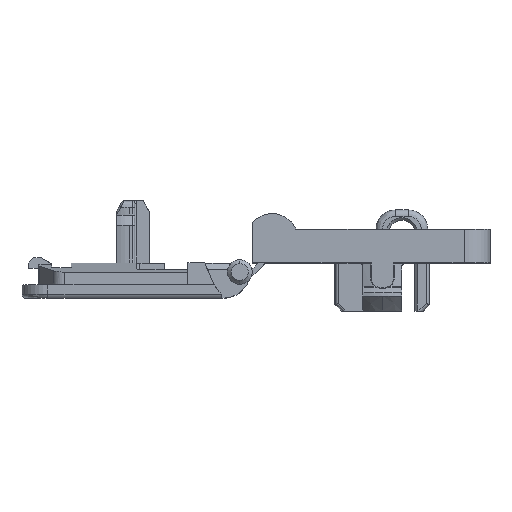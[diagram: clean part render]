
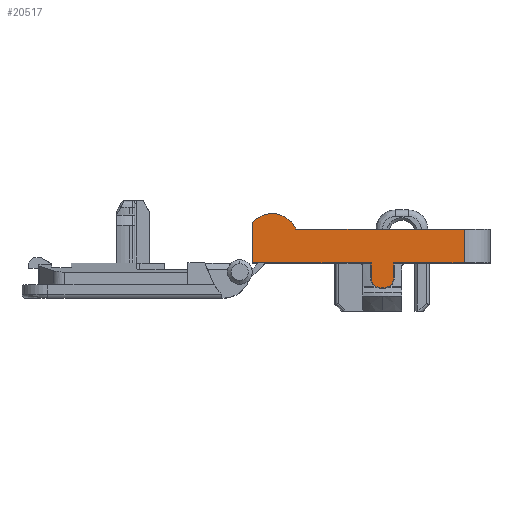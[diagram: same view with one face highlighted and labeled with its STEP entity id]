
A CAD part, top view. The second image highlights one B-rep face of the part: STEP entity #20517.
In plain terms, the highlighted planar face has unit normal (0, 0, 1).
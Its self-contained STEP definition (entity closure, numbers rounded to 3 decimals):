
#124 = DIRECTION ( 'NONE',  ( 0., 0., 1. ) ) ;
#149 = VERTEX_POINT ( 'NONE', #12566 ) ;
#677 = CARTESIAN_POINT ( 'NONE',  ( 7.98, -3.593, 8.5 ) ) ;
#1012 = CARTESIAN_POINT ( 'NONE',  ( 9.184, -3.451, 8.5 ) ) ;
#1053 = EDGE_CURVE ( 'NONE', #149, #10105, #10286, .T. ) ;
#1162 = ORIENTED_EDGE ( 'NONE', *, *, #2886, .F. ) ;
#1414 = VECTOR ( 'NONE', #13785, 1000. ) ;
#2325 = DIRECTION ( 'NONE',  ( 0., -1., 0. ) ) ;
#2367 = CARTESIAN_POINT ( 'NONE',  ( 7.634, -3.169, 8.5 ) ) ;
#2425 = CARTESIAN_POINT ( 'NONE',  ( 0., -1.8, 8.5 ) ) ;
#2434 = VERTEX_POINT ( 'NONE', #13339 ) ;
#2713 = CARTESIAN_POINT ( 'NONE',  ( 8.924, -3.645, 8.5 ) ) ;
#2886 = EDGE_CURVE ( 'NONE', #2434, #10105, #6380, .T. ) ;
#3083 = ORIENTED_EDGE ( 'NONE', *, *, #8000, .T. ) ;
#3202 = VERTEX_POINT ( 'NONE', #19467 ) ;
#3919 = DIRECTION ( 'NONE',  ( 0., 0., 1. ) ) ;
#4006 = CARTESIAN_POINT ( 'NONE',  ( -1.5, -1.8, 8.5 ) ) ;
#4123 = VECTOR ( 'NONE', #14665, 1000. ) ;
#4394 = CARTESIAN_POINT ( 'NONE',  ( 8.609, -3.725, 8.5 ) ) ;
#5517 = DIRECTION ( 'NONE',  ( 0., -1., 0. ) ) ;
#5611 = VERTEX_POINT ( 'NONE', #15696 ) ;
#5702 = ORIENTED_EDGE ( 'NONE', *, *, #1053, .T. ) ;
#5923 = VECTOR ( 'NONE', #8958, 1000. ) ;
#5928 = VECTOR ( 'NONE', #2325, 1000. ) ;
#6314 = VERTEX_POINT ( 'NONE', #7147 ) ;
#6380 = LINE ( 'NONE', #18736, #1414 ) ;
#6490 = VECTOR ( 'NONE', #12959, 1000. ) ;
#6576 = CARTESIAN_POINT ( 'NONE',  ( 1.833, 0.8, 8.5 ) ) ;
#6749 = CARTESIAN_POINT ( 'NONE',  ( 9.366, -1.8, 8.5 ) ) ;
#7147 = CARTESIAN_POINT ( 'NONE',  ( -1.5, -1.8, 8.5 ) ) ;
#7542 = CARTESIAN_POINT ( 'NONE',  ( 7.634, -1.8, 8.5 ) ) ;
#7624 = CARTESIAN_POINT ( 'NONE',  ( 9.366, -3.059, 8.5 ) ) ;
#8000 = EDGE_CURVE ( 'NONE', #15530, #8237, #8884, .T. ) ;
#8040 = LINE ( 'NONE', #11263, #6490 ) ;
#8237 = VERTEX_POINT ( 'NONE', #14657 ) ;
#8324 = ORIENTED_EDGE ( 'NONE', *, *, #19133, .T. ) ;
#8540 = LINE ( 'NONE', #6749, #4123 ) ;
#8753 = CARTESIAN_POINT ( 'NONE',  ( 8.5, -3.725, 8.5 ) ) ;
#8884 = CIRCLE ( 'NONE', #9714, 2. ) ;
#8920 = ORIENTED_EDGE ( 'NONE', *, *, #18682, .F. ) ;
#8958 = DIRECTION ( 'NONE',  ( 1., 0., 0. ) ) ;
#8964 = CARTESIAN_POINT ( 'NONE',  ( 8.391, -3.725, 8.5 ) ) ;
#9298 = EDGE_CURVE ( 'NONE', #2434, #15530, #11115, .T. ) ;
#9407 = ORIENTED_EDGE ( 'NONE', *, *, #12413, .T. ) ;
#9714 = AXIS2_PLACEMENT_3D ( 'NONE', #13805, #3919, #15459 ) ;
#9931 = PLANE ( 'NONE',  #16762 ) ;
#10017 = VERTEX_POINT ( 'NONE', #7542 ) ;
#10105 = VERTEX_POINT ( 'NONE', #12821 ) ;
#10116 = DIRECTION ( 'NONE',  ( -1., 0., 0. ) ) ;
#10286 = LINE ( 'NONE', #2425, #5923 ) ;
#10292 = LINE ( 'NONE', #4006, #5928 ) ;
#10398 = CARTESIAN_POINT ( 'NONE',  ( 7.634, -1.8, 8.5 ) ) ;
#10596 = CARTESIAN_POINT ( 'NONE',  ( 8.077, -3.645, 8.5 ) ) ;
#10623 = EDGE_CURVE ( 'NONE', #5611, #149, #8540, .T. ) ;
#10934 = CARTESIAN_POINT ( 'NONE',  ( 9.251, -3.363, 8.5 ) ) ;
#10994 = B_SPLINE_CURVE_WITH_KNOTS ( 'NONE', 3,
 ( #18889, #8964, #20540, #10596, #677, #12266, #2367, #13937 ),
 .UNSPECIFIED., .F., .F.,
 ( 4, 2, 2, 4 ),
 ( 0.001, 0.002, 0.002, 0.003 ),
 .UNSPECIFIED. ) ;
#11115 = LINE ( 'NONE', #18375, #20492 ) ;
#11263 = CARTESIAN_POINT ( 'NONE',  ( 0., -1.8, 8.5 ) ) ;
#11727 = DIRECTION ( 'NONE',  ( 1., 0., 0. ) ) ;
#11796 = ORIENTED_EDGE ( 'NONE', *, *, #10623, .T. ) ;
#11878 = VECTOR ( 'NONE', #5517, 1000. ) ;
#12266 = CARTESIAN_POINT ( 'NONE',  ( 7.734, -3.381, 8.5 ) ) ;
#12386 = LINE ( 'NONE', #10398, #11878 ) ;
#12413 = EDGE_CURVE ( 'NONE', #8237, #6314, #10292, .T. ) ;
#12566 = CARTESIAN_POINT ( 'NONE',  ( 9.366, -1.8, 8.5 ) ) ;
#12603 = CARTESIAN_POINT ( 'NONE',  ( 9.021, -3.592, 8.5 ) ) ;
#12821 = CARTESIAN_POINT ( 'NONE',  ( 14.8, -1.8, 8.5 ) ) ;
#12864 = EDGE_CURVE ( 'NONE', #15671, #3202, #10994, .T. ) ;
#12959 = DIRECTION ( 'NONE',  ( 1., 0., 0. ) ) ;
#13339 = CARTESIAN_POINT ( 'NONE',  ( 14.8, 0.8, 8.5 ) ) ;
#13785 = DIRECTION ( 'NONE',  ( 0., -1., 0. ) ) ;
#13805 = CARTESIAN_POINT ( 'NONE',  ( 0., 0., 8.5 ) ) ;
#13937 = CARTESIAN_POINT ( 'NONE',  ( 7.634, -2.95, 8.5 ) ) ;
#14280 = CARTESIAN_POINT ( 'NONE',  ( 8.717, -3.711, 8.5 ) ) ;
#14657 = CARTESIAN_POINT ( 'NONE',  ( -1.5, 1.323, 8.5 ) ) ;
#14665 = DIRECTION ( 'NONE',  ( 0., 1., 0. ) ) ;
#14724 = B_SPLINE_CURVE_WITH_KNOTS ( 'NONE', 3,
 ( #15850, #7624, #20869, #10934, #1012, #12603, #2713, #14280, #4394, #15923 ),
 .UNSPECIFIED., .F., .F.,
 ( 4, 2, 2, 2, 4 ),
 ( 0., 0., 0.001, 0.001, 0.001 ),
 .UNSPECIFIED. ) ;
#14849 = EDGE_LOOP ( 'NONE', ( #21315, #16795, #8920, #11796, #5702, #1162, #16743, #3083, #9407, #8324 ) ) ;
#15459 = DIRECTION ( 'NONE',  ( 1., 0., 0. ) ) ;
#15530 = VERTEX_POINT ( 'NONE', #6576 ) ;
#15671 = VERTEX_POINT ( 'NONE', #8753 ) ;
#15696 = CARTESIAN_POINT ( 'NONE',  ( 9.366, -2.95, 8.5 ) ) ;
#15850 = CARTESIAN_POINT ( 'NONE',  ( 9.366, -2.95, 8.5 ) ) ;
#15923 = CARTESIAN_POINT ( 'NONE',  ( 8.5, -3.725, 8.5 ) ) ;
#16743 = ORIENTED_EDGE ( 'NONE', *, *, #9298, .T. ) ;
#16762 = AXIS2_PLACEMENT_3D ( 'NONE', #20021, #124, #11727 ) ;
#16795 = ORIENTED_EDGE ( 'NONE', *, *, #12864, .F. ) ;
#18375 = CARTESIAN_POINT ( 'NONE',  ( -1.5, 0.8, 8.5 ) ) ;
#18682 = EDGE_CURVE ( 'NONE', #5611, #15671, #14724, .T. ) ;
#18736 = CARTESIAN_POINT ( 'NONE',  ( 14.8, 0.864, 8.5 ) ) ;
#18889 = CARTESIAN_POINT ( 'NONE',  ( 8.5, -3.725, 8.5 ) ) ;
#19133 = EDGE_CURVE ( 'NONE', #6314, #10017, #8040, .T. ) ;
#19393 = FACE_OUTER_BOUND ( 'NONE', #14849, .T. ) ;
#19467 = CARTESIAN_POINT ( 'NONE',  ( 7.634, -2.95, 8.5 ) ) ;
#19610 = EDGE_CURVE ( 'NONE', #10017, #3202, #12386, .T. ) ;
#20021 = CARTESIAN_POINT ( 'NONE',  ( -1.5, -1.8, 8.5 ) ) ;
#20492 = VECTOR ( 'NONE', #10116, 1000. ) ;
#20517 = ADVANCED_FACE ( 'NONE', ( #19393 ), #9931, .T. ) ;
#20540 = CARTESIAN_POINT ( 'NONE',  ( 8.284, -3.711, 8.5 ) ) ;
#20869 = CARTESIAN_POINT ( 'NONE',  ( 9.342, -3.167, 8.5 ) ) ;
#21315 = ORIENTED_EDGE ( 'NONE', *, *, #19610, .T. ) ;
